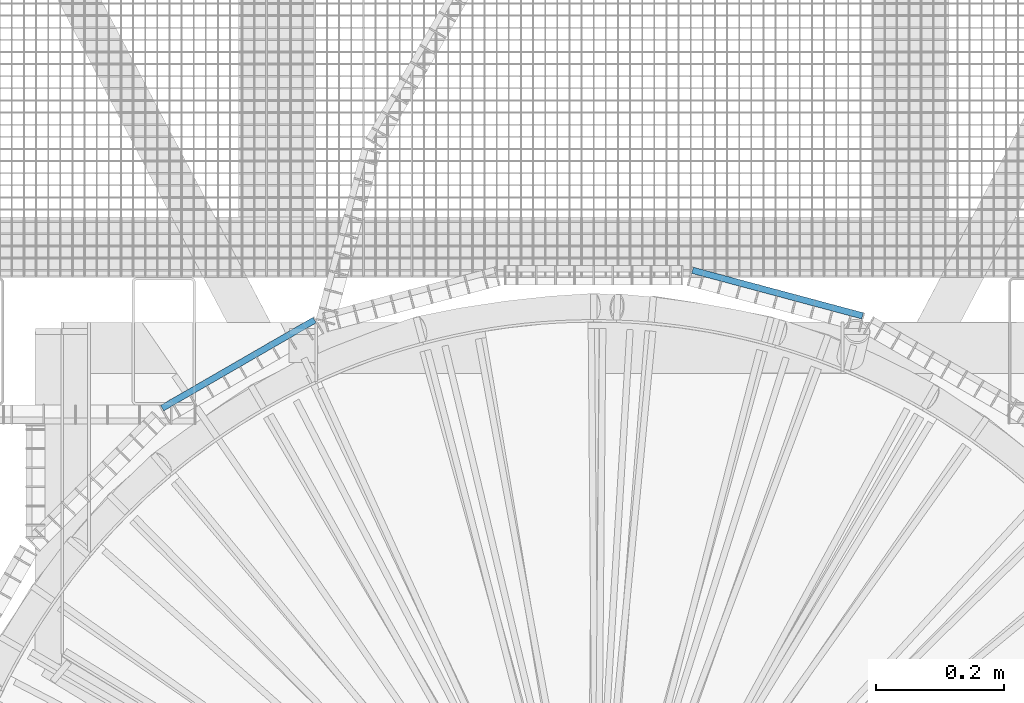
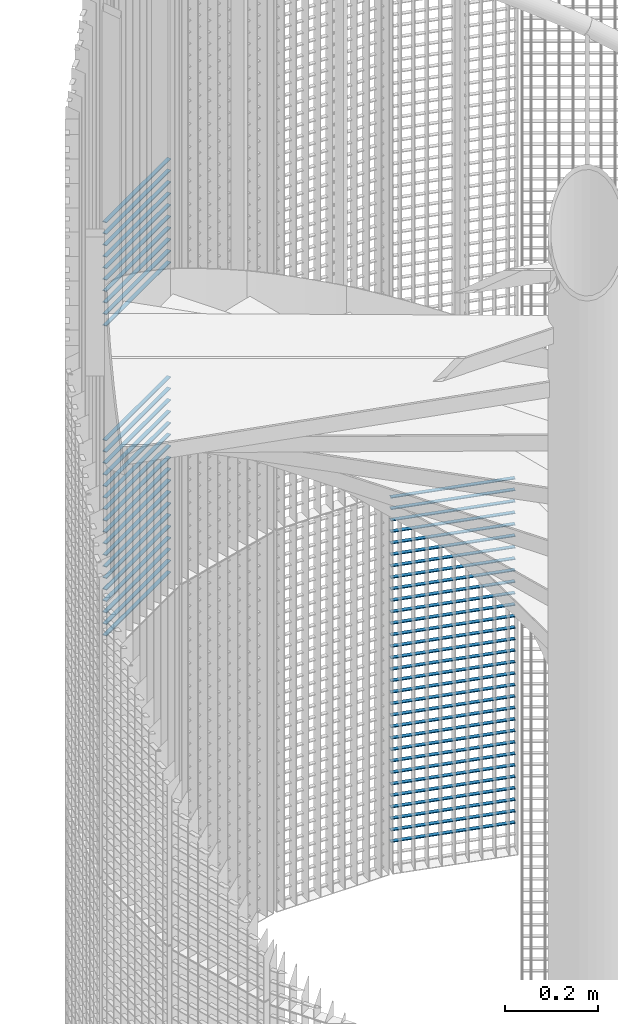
# One storey, part 309 of 1148: 59 beams, 2 elements without a shape of their own.
"""IFC2X3 building model written with IfcOpenShell, lengths in millimetres."""

import ifcopenshell
import ifcopenshell.guid

model = None  # the IFC model being written
_history = None  # IfcOwnerHistory: only IFC2X3 demands one
_inside = {}  # id of a spatial element -> (the spatial element, [elements in it])
_under = {}  # id of a project, library or spatial element -> (it, [spatial elements below it])
_declared = {}  # id of a project -> (the project, [libraries it declares])
_typed = {}  # id of a type object -> (the type object, [elements of that type])
_made_of = {}  # id of a material, layer set ... -> (it, [elements and type objects made of it])


def new_model(schema):
    """Start an empty IFC model of exactly this schema.

    Asked for "IFC4X3", IfcOpenShell would pick the latest addendum, in which some entities
    have other attributes; the version numbers below select the first issue.
    IFC2X3 requires an IfcOwnerHistory on every rooted entity: one is made here for all.
    """
    global model, _history
    if schema == "IFC4X3":
        model = ifcopenshell.file(schema_version=(4, 3, 0, 0))
    else:
        model = ifcopenshell.file(schema=schema)
    _inside.clear()
    _under.clear()
    _declared.clear()
    _typed.clear()
    _made_of.clear()
    _history = None
    if model.schema == "IFC2X3":
        org = make("IfcOrganization", Name="unknown")
        user = make(
            "IfcPersonAndOrganization",
            ThePerson=make("IfcPerson", FamilyName="unknown"),
            TheOrganization=org,
        )
        app = make(
            "IfcApplication",
            ApplicationDeveloper=org,
            Version="unknown",
            ApplicationFullName="unknown",
            ApplicationIdentifier="unknown",
        )
        _history = make(
            "IfcOwnerHistory",
            OwningUser=user,
            OwningApplication=app,
            ChangeAction="ADDED",
            CreationDate=0,
        )
    return model


def make(cls, **values):
    """One entity of the class cls with the attributes given. An attribute that is None is left unset."""
    return model.create_entity(
        cls, **{name: value for name, value in values.items() if value is not None}
    )


def rooted(cls, **values):
    """An entity with a GlobalId (a new one), such as an element, a storey or a relation."""
    return make(cls, GlobalId=ifcopenshell.guid.new(), OwnerHistory=_history, **values)


def si_unit(unit_type, name, prefix=None):
    """IfcSIUnit, for example si_unit("LENGTHUNIT", "METRE", prefix="MILLI")."""
    return make("IfcSIUnit", UnitType=unit_type, Prefix=prefix, Name=name)


def assignment(units):
    """IfcUnitAssignment: the units of a project."""
    return None if units is None else make("IfcUnitAssignment", Units=units)


def point(xyz):
    """IfcCartesianPoint."""
    return None if xyz is None else make("IfcCartesianPoint", Coordinates=xyz)


def direction(xyz):
    """IfcDirection."""
    return None if xyz is None else make("IfcDirection", DirectionRatios=xyz)


def frame(location, z_axis=None, x_axis=None):
    """IfcAxis2Placement3D, a coordinate frame: its origin and axes. An axis left out is left unset."""
    return make(
        "IfcAxis2Placement3D",
        Location=point(location),
        Axis=direction(z_axis),
        RefDirection=direction(x_axis),
    )


def frame_2d(location, x_axis=None):
    """IfcAxis2Placement2D, a coordinate frame in the plane: its origin and x axis."""
    return make(
        "IfcAxis2Placement2D", Location=point(location), RefDirection=direction(x_axis)
    )


def origin_with_axes():
    """The frame at (0, 0, 0) with the z axis (0, 0, 1) and the x axis (1, 0, 0) written out."""
    return frame((0.0, 0.0, 0.0), z_axis=(0.0, 0.0, 1.0), x_axis=(1.0, 0.0, 0.0))


def origin_2d_with_axis():
    """The frame at (0, 0) in the plane with the x axis (1, 0) written out."""
    return frame_2d((0.0, 0.0), x_axis=(1.0, 0.0))


def place(relative_to, where):
    """IfcLocalPlacement: puts the frame where relative to a parent placement (None: the world)."""
    return make(
        "IfcLocalPlacement", PlacementRelTo=relative_to, RelativePlacement=where
    )


def context(
    kind, dimensions, precision=None, world=None, true_north=None, identifier=None
):
    """IfcGeometricRepresentationContext, for example the 3D "Model" context."""
    return make(
        "IfcGeometricRepresentationContext",
        ContextIdentifier=identifier,
        ContextType=kind,
        CoordinateSpaceDimension=dimensions,
        Precision=precision,
        WorldCoordinateSystem=world,
        TrueNorth=true_north,
    )


def subcontext(parent, identifier, kind, view, scale=None):
    """IfcGeometricRepresentationSubContext, for example "Body" below "Model"."""
    return make(
        "IfcGeometricRepresentationSubContext",
        ContextIdentifier=identifier,
        ContextType=kind,
        ParentContext=parent,
        TargetScale=scale,
        TargetView=view,
    )


def project(units=None, contexts=None):
    """IfcProject with its units and contexts."""
    return rooted(
        "IfcProject",
        Name="project",
        RepresentationContexts=contexts,
        UnitsInContext=assignment(units),
    )


def spatial(cls, under=None, at=None, **own):
    """A site, building, storey or space (cls), placed at a placement, below another one or the project."""
    s = rooted(cls, ObjectPlacement=at, **own)
    if under is not None:
        _under.setdefault(under.id(), (under, []))[1].append(s)
    return s


def profile(cls, at=None, kind="AREA", **sizes):
    """A parametric profile (cls). Its sizes go by their IFC names, for example OverallWidth=200.0."""
    return make(cls, ProfileType=kind, Position=at, **sizes)


def rectangle(**sizes):
    """IfcRectangleProfileDef."""
    return profile("IfcRectangleProfileDef", **sizes)


def extrude(swept, where, along, depth):
    """IfcExtrudedAreaSolid: the profile swept, set in the frame where, extruded along a direction by depth."""
    return make(
        "IfcExtrudedAreaSolid",
        SweptArea=swept,
        Position=where,
        ExtrudedDirection=direction(along),
        Depth=depth,
    )


def shape(context_of_items, identifier, shape_type, items):
    """IfcShapeRepresentation: the items that make up one representation, for example the "Body"."""
    return make(
        "IfcShapeRepresentation",
        ContextOfItems=context_of_items,
        RepresentationIdentifier=identifier,
        RepresentationType=shape_type,
        Items=items,
    )


def material(Name=None, Category=None):
    """IfcMaterial."""
    return make("IfcMaterial", Name=Name, Category=Category)


def made_of(thing, what):
    """Note that an element or type object is made of a material, layer set ...; save() writes the relation."""
    if what is not None:
        _made_of.setdefault(what.id(), (what, []))[1].append(thing)
    return thing


def type_object(cls, material=None, **own):
    """A type object (cls), such as IfcWallType, which elements share."""
    return made_of(rooted(cls, **own), material)


def element(
    cls,
    number,
    at=None,
    inside=None,
    cuts=None,
    type_object=None,
    material=None,
    context=None,
    identifier="Body",
    shape_type=None,
    held_by="IfcProductDefinitionShape",
    body=None,
    shapes=None,
    **own,
):
    """One element of the class cls, such as IfcWall. Its Tag is "e" and its number.

    at: its placement. inside: the storey or other place that contains it. cuts: it is an
    opening in that element (IfcRelVoidsElement). A single representation is given by context,
    identifier, shape_type and body (its items); several are given by shapes. held_by: the class
    of the entity that holds the representations. save() writes the other relations.
    """
    e = rooted(cls, Tag="e%d" % number, ObjectPlacement=at, **own)
    if body is not None:
        shapes = [shape(context, identifier, shape_type, body)]
    if shapes is not None:
        e.Representation = make(held_by, Representations=shapes)
    if inside is not None:
        _inside.setdefault(inside.id(), (inside, []))[1].append(e)
    if cuts is not None:
        rooted(
            "IfcRelVoidsElement", RelatingBuildingElement=cuts, RelatedOpeningElement=e
        )
    if type_object is not None:
        _typed.setdefault(type_object.id(), (type_object, []))[1].append(e)
    return made_of(e, material)


def aggregate(whole, parts):
    """IfcRelAggregates: a whole, such as a stair, and the parts it consists of."""
    return rooted("IfcRelAggregates", RelatingObject=whole, RelatedObjects=parts)


def save(model, path):
    """Write the relations noted so far, then the file.

    IfcRelAggregates (storeys below a building ...), IfcRelContainedInSpatialStructure (elements
    in a storey), IfcRelDefinesByType, IfcRelAssociatesMaterial and IfcRelDeclares: one each for
    every whole, place, type object, material and project.
    """
    for whole, parts in _under.values():
        aggregate(whole, parts)
    for where, things in _inside.values():
        rooted(
            "IfcRelContainedInSpatialStructure",
            RelatedElements=things,
            RelatingStructure=where,
        )
    for kind, things in _typed.values():
        rooted("IfcRelDefinesByType", RelatedObjects=things, RelatingType=kind)
    for what, things in _made_of.values():
        rooted("IfcRelAssociatesMaterial", RelatedObjects=things, RelatingMaterial=what)
    for by, libraries in _declared.values():
        rooted("IfcRelDeclares", RelatingContext=by, RelatedDefinitions=libraries)
    model.write(path)


model = new_model("IFC2X3")

# Units and contexts
model_context = context("Model", 3, precision=1e-05, world=origin_with_axes())
body_context = subcontext(model_context, "Body", "Model", "MODEL_VIEW")
ifc_project = project(units=[si_unit("LENGTHUNIT", "METRE", prefix="MILLI"), si_unit("AREAUNIT", "SQUARE_METRE"), si_unit("VOLUMEUNIT", "CUBIC_METRE"), si_unit("MASSUNIT", "GRAM", prefix="KILO"), si_unit("TIMEUNIT", "SECOND"), si_unit("PLANEANGLEUNIT", "RADIAN"), si_unit("SOLIDANGLEUNIT", "STERADIAN"), si_unit("THERMODYNAMICTEMPERATUREUNIT", "DEGREE_CELSIUS"), si_unit("LUMINOUSINTENSITYUNIT", "LUMEN")], contexts=[model_context])

# Site, building, storey
site_placement = place(None, origin_with_axes())
site = spatial("IfcSite", under=ifc_project, at=site_placement, Name="Undefined", CompositionType="ELEMENT")
building_placement = place(site_placement, origin_with_axes())
building = spatial("IfcBuilding", under=site, at=building_placement, Name="Undefined", CompositionType="ELEMENT")
storey_placement = place(building_placement, origin_with_axes())
storey = spatial("IfcBuildingStorey", under=building, at=storey_placement, Name="Undefined", CompositionType="ELEMENT", Elevation=0.0)

# Assembly, beams
assembly_1_placement = place(storey_placement, origin_with_axes())
assembly_1 = element("IfcElementAssembly", 1, at=assembly_1_placement, inside=storey, Name="BORDURE", AssemblyPlace="NOTDEFINED", PredefinedType="NOTDEFINED")
ifc_material = material(Name="STEEL/S235JR")
beam_type = type_object("IfcBeamType", Name="PL2*10", PredefinedType="NOTDEFINED")
beam_1_placement = place(assembly_1_placement, frame((-437.231955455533, 1033.29996828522, 3540.0), z_axis=(-0.49999999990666, 0.866025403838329, 0.0), x_axis=(-0.866025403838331, -0.499999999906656, 0.0)))
beam_1 = element("IfcBeam", 2, at=beam_1_placement, type_object=beam_type, material=ifc_material, Name="ENTRETOISE", context=body_context, shape_type="SweptSolid", body=[
    extrude(rectangle(XDim=2.0, YDim=10.0, at=origin_2d_with_axis()), frame((275.999999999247, 9.09494701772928e-13, 1.53210777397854e-14), z_axis=(-1.0, 0.0, 0.0), x_axis=(0.0, -1.0, 0.0)), (0.0, 0.0, 1.0), 276.0),
])
beam_2_placement = place(assembly_1_placement, frame((-437.231955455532, 1033.29996828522, 3840.0), z_axis=(-0.49999999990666, 0.866025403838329, 0.0), x_axis=(-0.866025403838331, -0.499999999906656, 0.0)))
beam_2 = element("IfcBeam", 3, at=beam_2_placement, type_object=beam_type, material=ifc_material, Name="ENTRETOISE", context=body_context, shape_type="SweptSolid", body=[
    extrude(rectangle(XDim=2.0, YDim=10.0, at=origin_2d_with_axis()), frame((275.999999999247, 9.09494701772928e-13, 1.53210777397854e-14), z_axis=(-1.0, 0.0, 0.0), x_axis=(0.0, -1.0, 0.0)), (0.0, 0.0, 1.0), 276.0),
])
beam_3_placement = place(assembly_1_placement, frame((-437.231955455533, 1033.29996828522, 3510.0), z_axis=(-0.49999999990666, 0.866025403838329, 0.0), x_axis=(-0.866025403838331, -0.499999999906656, 0.0)))
beam_3 = element("IfcBeam", 4, at=beam_3_placement, type_object=beam_type, material=ifc_material, Name="ENTRETOISE", context=body_context, shape_type="SweptSolid", body=[
    extrude(rectangle(XDim=2.0, YDim=10.0, at=origin_2d_with_axis()), frame((275.999999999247, 9.09494701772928e-13, 1.53210777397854e-14), z_axis=(-1.0, 0.0, 0.0), x_axis=(0.0, -1.0, 0.0)), (0.0, 0.0, 1.0), 276.0),
])
beam_4_placement = place(assembly_1_placement, frame((-437.231955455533, 1033.29996828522, 3480.0), z_axis=(-0.49999999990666, 0.866025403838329, 0.0), x_axis=(-0.866025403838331, -0.499999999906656, 0.0)))
beam_4 = element("IfcBeam", 5, at=beam_4_placement, type_object=beam_type, material=ifc_material, Name="ENTRETOISE", context=body_context, shape_type="SweptSolid", body=[
    extrude(rectangle(XDim=2.0, YDim=10.0, at=origin_2d_with_axis()), frame((275.999999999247, 9.09494701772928e-13, 1.53210777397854e-14), z_axis=(-1.0, 0.0, 0.0), x_axis=(0.0, -1.0, 0.0)), (0.0, 0.0, 1.0), 276.0),
])
beam_5_placement = place(assembly_1_placement, frame((-437.231955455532, 1033.29996828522, 3870.0), z_axis=(-0.49999999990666, 0.866025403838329, 0.0), x_axis=(-0.866025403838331, -0.499999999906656, 0.0)))
beam_5 = element("IfcBeam", 6, at=beam_5_placement, type_object=beam_type, material=ifc_material, Name="ENTRETOISE", context=body_context, shape_type="SweptSolid", body=[
    extrude(rectangle(XDim=2.0, YDim=10.0, at=origin_2d_with_axis()), frame((275.999999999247, 9.09494701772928e-13, 1.53210777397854e-14), z_axis=(-1.0, 0.0, 0.0), x_axis=(0.0, -1.0, 0.0)), (0.0, 0.0, 1.0), 276.0),
])
beam_6_placement = place(assembly_1_placement, frame((-437.231955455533, 1033.29996828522, 3450.0), z_axis=(-0.49999999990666, 0.866025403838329, 0.0), x_axis=(-0.866025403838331, -0.499999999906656, 0.0)))
beam_6 = element("IfcBeam", 7, at=beam_6_placement, type_object=beam_type, material=ifc_material, Name="ENTRETOISE", context=body_context, shape_type="SweptSolid", body=[
    extrude(rectangle(XDim=2.0, YDim=10.0, at=origin_2d_with_axis()), frame((275.999999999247, 9.09494701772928e-13, 1.53210777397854e-14), z_axis=(-1.0, 0.0, 0.0), x_axis=(0.0, -1.0, 0.0)), (0.0, 0.0, 1.0), 276.0),
])
beam_7_placement = place(assembly_1_placement, frame((-437.231955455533, 1033.29996828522, 3420.0), z_axis=(-0.49999999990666, 0.866025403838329, 0.0), x_axis=(-0.866025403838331, -0.499999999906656, 0.0)))
beam_7 = element("IfcBeam", 8, at=beam_7_placement, type_object=beam_type, material=ifc_material, Name="ENTRETOISE", context=body_context, shape_type="SweptSolid", body=[
    extrude(rectangle(XDim=2.0, YDim=10.0, at=origin_2d_with_axis()), frame((275.999999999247, 9.09494701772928e-13, 1.53210777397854e-14), z_axis=(-1.0, 0.0, 0.0), x_axis=(0.0, -1.0, 0.0)), (0.0, 0.0, 1.0), 276.0),
])
beam_8_placement = place(assembly_1_placement, frame((-437.231955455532, 1033.29996828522, 3900.0), z_axis=(-0.49999999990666, 0.866025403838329, 0.0), x_axis=(-0.866025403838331, -0.499999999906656, 0.0)))
beam_8 = element("IfcBeam", 9, at=beam_8_placement, type_object=beam_type, material=ifc_material, Name="ENTRETOISE", context=body_context, shape_type="SweptSolid", body=[
    extrude(rectangle(XDim=2.0, YDim=10.0, at=origin_2d_with_axis()), frame((275.999999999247, 9.09494701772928e-13, 1.53210777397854e-14), z_axis=(-1.0, 0.0, 0.0), x_axis=(0.0, -1.0, 0.0)), (0.0, 0.0, 1.0), 276.0),
])
beam_9_placement = place(assembly_1_placement, frame((-437.231955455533, 1033.29996828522, 3390.0), z_axis=(-0.49999999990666, 0.866025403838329, 0.0), x_axis=(-0.866025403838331, -0.499999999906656, 0.0)))
beam_9 = element("IfcBeam", 10, at=beam_9_placement, type_object=beam_type, material=ifc_material, Name="ENTRETOISE", context=body_context, shape_type="SweptSolid", body=[
    extrude(rectangle(XDim=2.0, YDim=10.0, at=origin_2d_with_axis()), frame((275.999999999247, 9.09494701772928e-13, 1.53210777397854e-14), z_axis=(-1.0, 0.0, 0.0), x_axis=(0.0, -1.0, 0.0)), (0.0, 0.0, 1.0), 276.0),
])
beam_10_placement = place(assembly_1_placement, frame((-437.231955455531, 1033.29996828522, 3930.0), z_axis=(-0.49999999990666, 0.866025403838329, 0.0), x_axis=(-0.866025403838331, -0.499999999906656, 0.0)))
beam_10 = element("IfcBeam", 11, at=beam_10_placement, type_object=beam_type, material=ifc_material, Name="ENTRETOISE", context=body_context, shape_type="SweptSolid", body=[
    extrude(rectangle(XDim=2.0, YDim=10.0, at=origin_2d_with_axis()), frame((275.999999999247, 9.09494701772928e-13, 1.53210777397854e-14), z_axis=(-1.0, 0.0, 0.0), x_axis=(0.0, -1.0, 0.0)), (0.0, 0.0, 1.0), 276.0),
])
beam_11_placement = place(assembly_1_placement, frame((-437.231955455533, 1033.29996828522, 3360.0), z_axis=(-0.49999999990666, 0.866025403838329, 0.0), x_axis=(-0.866025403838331, -0.499999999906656, 0.0)))
beam_11 = element("IfcBeam", 12, at=beam_11_placement, type_object=beam_type, material=ifc_material, Name="ENTRETOISE", context=body_context, shape_type="SweptSolid", body=[
    extrude(rectangle(XDim=2.0, YDim=10.0, at=origin_2d_with_axis()), frame((275.999999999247, 9.09494701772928e-13, 1.53210777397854e-14), z_axis=(-1.0, 0.0, 0.0), x_axis=(0.0, -1.0, 0.0)), (0.0, 0.0, 1.0), 276.0),
])
beam_12_placement = place(assembly_1_placement, frame((-437.231955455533, 1033.29996828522, 3330.0), z_axis=(-0.49999999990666, 0.866025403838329, 0.0), x_axis=(-0.866025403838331, -0.499999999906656, 0.0)))
beam_12 = element("IfcBeam", 13, at=beam_12_placement, type_object=beam_type, material=ifc_material, Name="ENTRETOISE", context=body_context, shape_type="SweptSolid", body=[
    extrude(rectangle(XDim=2.0, YDim=10.0, at=origin_2d_with_axis()), frame((275.999999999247, 9.09494701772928e-13, 1.53210777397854e-14), z_axis=(-1.0, 0.0, 0.0), x_axis=(0.0, -1.0, 0.0)), (0.0, 0.0, 1.0), 276.0),
])
beam_13_placement = place(assembly_1_placement, frame((-437.231955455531, 1033.29996828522, 3960.0), z_axis=(-0.49999999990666, 0.866025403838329, 0.0), x_axis=(-0.866025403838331, -0.499999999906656, 0.0)))
beam_13 = element("IfcBeam", 14, at=beam_13_placement, type_object=beam_type, material=ifc_material, Name="ENTRETOISE", context=body_context, shape_type="SweptSolid", body=[
    extrude(rectangle(XDim=2.0, YDim=10.0, at=origin_2d_with_axis()), frame((275.999999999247, 9.09494701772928e-13, 1.53210777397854e-14), z_axis=(-1.0, 0.0, 0.0), x_axis=(0.0, -1.0, 0.0)), (0.0, 0.0, 1.0), 276.0),
])
beam_14_placement = place(assembly_1_placement, frame((-437.231955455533, 1033.29996828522, 3300.0), z_axis=(-0.49999999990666, 0.866025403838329, 0.0), x_axis=(-0.866025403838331, -0.499999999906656, 0.0)))
beam_14 = element("IfcBeam", 15, at=beam_14_placement, type_object=beam_type, material=ifc_material, Name="ENTRETOISE", context=body_context, shape_type="SweptSolid", body=[
    extrude(rectangle(XDim=2.0, YDim=10.0, at=origin_2d_with_axis()), frame((275.999999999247, 9.09494701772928e-13, 1.53210777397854e-14), z_axis=(-1.0, 0.0, 0.0), x_axis=(0.0, -1.0, 0.0)), (0.0, 0.0, 1.0), 276.0),
])
beam_15_placement = place(assembly_1_placement, frame((-437.231955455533, 1033.29996828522, 3270.0), z_axis=(-0.49999999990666, 0.866025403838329, 0.0), x_axis=(-0.866025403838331, -0.499999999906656, 0.0)))
beam_15 = element("IfcBeam", 16, at=beam_15_placement, type_object=beam_type, material=ifc_material, Name="ENTRETOISE", context=body_context, shape_type="SweptSolid", body=[
    extrude(rectangle(XDim=2.0, YDim=10.0, at=origin_2d_with_axis()), frame((275.999999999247, 9.09494701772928e-13, 1.53210777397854e-14), z_axis=(-1.0, 0.0, 0.0), x_axis=(0.0, -1.0, 0.0)), (0.0, 0.0, 1.0), 276.0),
])
beam_16_placement = place(assembly_1_placement, frame((-437.231955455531, 1033.29996828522, 3990.0), z_axis=(-0.49999999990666, 0.866025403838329, 0.0), x_axis=(-0.866025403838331, -0.499999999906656, 0.0)))
beam_16 = element("IfcBeam", 17, at=beam_16_placement, type_object=beam_type, material=ifc_material, Name="ENTRETOISE", context=body_context, shape_type="SweptSolid", body=[
    extrude(rectangle(XDim=2.0, YDim=10.0, at=origin_2d_with_axis()), frame((275.999999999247, 9.09494701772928e-13, 1.53210777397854e-14), z_axis=(-1.0, 0.0, 0.0), x_axis=(0.0, -1.0, 0.0)), (0.0, 0.0, 1.0), 276.0),
])
beam_17_placement = place(assembly_1_placement, frame((-437.231955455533, 1033.29996828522, 3240.0), z_axis=(-0.49999999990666, 0.866025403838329, 0.0), x_axis=(-0.866025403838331, -0.499999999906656, 0.0)))
beam_17 = element("IfcBeam", 18, at=beam_17_placement, type_object=beam_type, material=ifc_material, Name="ENTRETOISE", context=body_context, shape_type="SweptSolid", body=[
    extrude(rectangle(XDim=2.0, YDim=10.0, at=origin_2d_with_axis()), frame((275.999999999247, 9.09494701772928e-13, 1.53210777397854e-14), z_axis=(-1.0, 0.0, 0.0), x_axis=(0.0, -1.0, 0.0)), (0.0, 0.0, 1.0), 276.0),
])
beam_18_placement = place(assembly_1_placement, frame((-437.231955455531, 1033.29996828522, 4020.0), z_axis=(-0.49999999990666, 0.866025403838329, 0.0), x_axis=(-0.866025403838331, -0.499999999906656, 0.0)))
beam_18 = element("IfcBeam", 19, at=beam_18_placement, type_object=beam_type, material=ifc_material, Name="ENTRETOISE", context=body_context, shape_type="SweptSolid", body=[
    extrude(rectangle(XDim=2.0, YDim=10.0, at=origin_2d_with_axis()), frame((275.999999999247, 9.09494701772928e-13, 1.53210777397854e-14), z_axis=(-1.0, 0.0, 0.0), x_axis=(0.0, -1.0, 0.0)), (0.0, 0.0, 1.0), 276.0),
])
beam_19_placement = place(assembly_1_placement, frame((-437.231955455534, 1033.29996828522, 3210.0), z_axis=(-0.49999999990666, 0.866025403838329, 0.0), x_axis=(-0.866025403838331, -0.499999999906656, 0.0)))
beam_19 = element("IfcBeam", 20, at=beam_19_placement, type_object=beam_type, material=ifc_material, Name="ENTRETOISE", context=body_context, shape_type="SweptSolid", body=[
    extrude(rectangle(XDim=2.0, YDim=10.0, at=origin_2d_with_axis()), frame((275.999999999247, 9.09494701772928e-13, 1.53210777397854e-14), z_axis=(-1.0, 0.0, 0.0), x_axis=(0.0, -1.0, 0.0)), (0.0, 0.0, 1.0), 276.0),
])
beam_20_placement = place(assembly_1_placement, frame((-437.231955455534, 1033.29996828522, 3180.0), z_axis=(-0.49999999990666, 0.866025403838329, 0.0), x_axis=(-0.866025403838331, -0.499999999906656, 0.0)))
beam_20 = element("IfcBeam", 21, at=beam_20_placement, type_object=beam_type, material=ifc_material, Name="ENTRETOISE", context=body_context, shape_type="SweptSolid", body=[
    extrude(rectangle(XDim=2.0, YDim=10.0, at=origin_2d_with_axis()), frame((275.999999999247, 9.09494701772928e-13, 1.53210777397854e-14), z_axis=(-1.0, 0.0, 0.0), x_axis=(0.0, -1.0, 0.0)), (0.0, 0.0, 1.0), 276.0),
])
beam_21_placement = place(assembly_1_placement, frame((-437.231955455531, 1033.29996828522, 4050.0), z_axis=(-0.49999999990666, 0.866025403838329, 0.0), x_axis=(-0.866025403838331, -0.499999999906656, 0.0)))
beam_21 = element("IfcBeam", 22, at=beam_21_placement, type_object=beam_type, material=ifc_material, Name="ENTRETOISE", context=body_context, shape_type="SweptSolid", body=[
    extrude(rectangle(XDim=2.0, YDim=10.0, at=origin_2d_with_axis()), frame((275.999999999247, 9.09494701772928e-13, 1.53210777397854e-14), z_axis=(-1.0, 0.0, 0.0), x_axis=(0.0, -1.0, 0.0)), (0.0, 0.0, 1.0), 276.0),
])
beam_22_placement = place(assembly_1_placement, frame((-437.231955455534, 1033.29996828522, 3150.0), z_axis=(-0.49999999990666, 0.866025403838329, 0.0), x_axis=(-0.866025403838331, -0.499999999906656, 0.0)))
beam_22 = element("IfcBeam", 23, at=beam_22_placement, type_object=beam_type, material=ifc_material, Name="ENTRETOISE", context=body_context, shape_type="SweptSolid", body=[
    extrude(rectangle(XDim=2.0, YDim=10.0, at=origin_2d_with_axis()), frame((275.999999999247, 9.09494701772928e-13, 1.53210777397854e-14), z_axis=(-1.0, 0.0, 0.0), x_axis=(0.0, -1.0, 0.0)), (0.0, 0.0, 1.0), 276.0),
])
beam_23_placement = place(assembly_1_placement, frame((-437.231955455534, 1033.29996828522, 3120.0), z_axis=(-0.49999999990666, 0.866025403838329, 0.0), x_axis=(-0.866025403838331, -0.499999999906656, 0.0)))
beam_23 = element("IfcBeam", 24, at=beam_23_placement, type_object=beam_type, material=ifc_material, Name="ENTRETOISE", context=body_context, shape_type="SweptSolid", body=[
    extrude(rectangle(XDim=2.0, YDim=10.0, at=origin_2d_with_axis()), frame((275.999999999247, 9.09494701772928e-13, 1.53210777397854e-14), z_axis=(-1.0, 0.0, 0.0), x_axis=(0.0, -1.0, 0.0)), (0.0, 0.0, 1.0), 276.0),
])
beam_24_placement = place(assembly_1_placement, frame((-437.231955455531, 1033.29996828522, 4080.0), z_axis=(-0.49999999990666, 0.866025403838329, 0.0), x_axis=(-0.866025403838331, -0.499999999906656, 0.0)))
beam_24 = element("IfcBeam", 25, at=beam_24_placement, type_object=beam_type, material=ifc_material, Name="ENTRETOISE", context=body_context, shape_type="SweptSolid", body=[
    extrude(rectangle(XDim=2.0, YDim=10.0, at=origin_2d_with_axis()), frame((275.999999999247, 9.09494701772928e-13, 1.53210777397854e-14), z_axis=(-1.0, 0.0, 0.0), x_axis=(0.0, -1.0, 0.0)), (0.0, 0.0, 1.0), 276.0),
])
beam_25_placement = place(assembly_1_placement, frame((-437.231955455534, 1033.29996828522, 3090.0), z_axis=(-0.49999999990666, 0.866025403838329, 0.0), x_axis=(-0.866025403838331, -0.499999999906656, 0.0)))
beam_25 = element("IfcBeam", 26, at=beam_25_placement, type_object=beam_type, material=ifc_material, Name="ENTRETOISE", context=body_context, shape_type="SweptSolid", body=[
    extrude(rectangle(XDim=2.0, YDim=10.0, at=origin_2d_with_axis()), frame((275.999999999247, 9.09494701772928e-13, 1.53210777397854e-14), z_axis=(-1.0, 0.0, 0.0), x_axis=(0.0, -1.0, 0.0)), (0.0, 0.0, 1.0), 276.0),
])
beam_26_placement = place(assembly_1_placement, frame((-437.231955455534, 1033.29996828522, 3060.0), z_axis=(-0.49999999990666, 0.866025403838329, 0.0), x_axis=(-0.866025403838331, -0.499999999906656, 0.0)))
beam_26 = element("IfcBeam", 27, at=beam_26_placement, type_object=beam_type, material=ifc_material, Name="ENTRETOISE", context=body_context, shape_type="SweptSolid", body=[
    extrude(rectangle(XDim=2.0, YDim=10.0, at=origin_2d_with_axis()), frame((275.999999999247, 9.09494701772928e-13, 1.53210777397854e-14), z_axis=(-1.0, 0.0, 0.0), x_axis=(0.0, -1.0, 0.0)), (0.0, 0.0, 1.0), 276.0),
])
beam_27_placement = place(assembly_1_placement, frame((-437.231955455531, 1033.29996828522, 4110.0), z_axis=(-0.49999999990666, 0.866025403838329, 0.0), x_axis=(-0.866025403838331, -0.499999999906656, 0.0)))
beam_27 = element("IfcBeam", 28, at=beam_27_placement, type_object=beam_type, material=ifc_material, Name="ENTRETOISE", context=body_context, shape_type="SweptSolid", body=[
    extrude(rectangle(XDim=2.0, YDim=10.0, at=origin_2d_with_axis()), frame((275.999999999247, 9.09494701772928e-13, 1.53210777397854e-14), z_axis=(-1.0, 0.0, 0.0), x_axis=(0.0, -1.0, 0.0)), (0.0, 0.0, 1.0), 276.0),
])
beam_28_placement = place(assembly_1_placement, frame((-437.231955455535, 1033.29996828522, 3030.0), z_axis=(-0.49999999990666, 0.866025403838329, 0.0), x_axis=(-0.866025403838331, -0.499999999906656, 0.0)))
beam_28 = element("IfcBeam", 29, at=beam_28_placement, type_object=beam_type, material=ifc_material, Name="ENTRETOISE", context=body_context, shape_type="SweptSolid", body=[
    extrude(rectangle(XDim=2.0, YDim=10.0, at=origin_2d_with_axis()), frame((275.999999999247, 9.09494701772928e-13, 1.53210777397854e-14), z_axis=(-1.0, 0.0, 0.0), x_axis=(0.0, -1.0, 0.0)), (0.0, 0.0, 1.0), 276.0),
])
aggregate(assembly_1, [beam_1, beam_2, beam_3, beam_4, beam_5, beam_6, beam_7, beam_8, beam_9, beam_10, beam_11, beam_12, beam_13, beam_14, beam_15, beam_16, beam_17, beam_18, beam_19, beam_20, beam_21, beam_22, beam_23, beam_24, beam_25, beam_26, beam_27, beam_28])

assembly_2_placement = place(storey_placement, origin_with_axes())
assembly_2 = element("IfcElementAssembly", 30, at=assembly_2_placement, inside=storey, Name="BORDURE", AssemblyPlace="NOTDEFINED", PredefinedType="NOTDEFINED")
beam_29_placement = place(assembly_2_placement, frame((421.483733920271, 1039.82309522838, 2970.0), z_axis=(0.258819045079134, 0.965925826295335, 0.0), x_axis=(-0.965925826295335, 0.258819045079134, 0.0)))
beam_29 = element("IfcBeam", 31, at=beam_29_placement, type_object=beam_type, material=ifc_material, Name="ENTRETOISE", context=body_context, shape_type="SweptSolid", body=[
    extrude(rectangle(XDim=2.0, YDim=10.0, at=origin_2d_with_axis()), frame((275.999999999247, 9.09494701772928e-13, 1.53210777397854e-14), z_axis=(-1.0, 0.0, 0.0), x_axis=(0.0, -1.0, 0.0)), (0.0, 0.0, 1.0), 276.0),
])
beam_30_placement = place(assembly_2_placement, frame((421.483733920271, 1039.82309522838, 2940.0), z_axis=(0.258819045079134, 0.965925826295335, 0.0), x_axis=(-0.965925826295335, 0.258819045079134, 0.0)))
beam_30 = element("IfcBeam", 32, at=beam_30_placement, type_object=beam_type, material=ifc_material, Name="ENTRETOISE", context=body_context, shape_type="SweptSolid", body=[
    extrude(rectangle(XDim=2.0, YDim=10.0, at=origin_2d_with_axis()), frame((275.999999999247, 9.09494701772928e-13, 1.53210777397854e-14), z_axis=(-1.0, 0.0, 0.0), x_axis=(0.0, -1.0, 0.0)), (0.0, 0.0, 1.0), 276.0),
])
beam_31_placement = place(assembly_2_placement, frame((421.483733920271, 1039.82309522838, 2910.0), z_axis=(0.258819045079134, 0.965925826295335, 0.0), x_axis=(-0.965925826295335, 0.258819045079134, 0.0)))
beam_31 = element("IfcBeam", 33, at=beam_31_placement, type_object=beam_type, material=ifc_material, Name="ENTRETOISE", context=body_context, shape_type="SweptSolid", body=[
    extrude(rectangle(XDim=2.0, YDim=10.0, at=origin_2d_with_axis()), frame((275.999999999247, 9.09494701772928e-13, 1.53210777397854e-14), z_axis=(-1.0, 0.0, 0.0), x_axis=(0.0, -1.0, 0.0)), (0.0, 0.0, 1.0), 276.0),
])
beam_32_placement = place(assembly_2_placement, frame((421.483733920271, 1039.82309522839, 2880.0), z_axis=(0.258819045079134, 0.965925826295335, 0.0), x_axis=(-0.965925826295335, 0.258819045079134, 0.0)))
beam_32 = element("IfcBeam", 34, at=beam_32_placement, type_object=beam_type, material=ifc_material, Name="ENTRETOISE", context=body_context, shape_type="SweptSolid", body=[
    extrude(rectangle(XDim=2.0, YDim=10.0, at=origin_2d_with_axis()), frame((275.999999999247, 9.09494701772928e-13, 1.53210777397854e-14), z_axis=(-1.0, 0.0, 0.0), x_axis=(0.0, -1.0, 0.0)), (0.0, 0.0, 1.0), 276.0),
])
beam_33_placement = place(assembly_2_placement, frame((421.483733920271, 1039.82309522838, 2850.0), z_axis=(0.258819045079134, 0.965925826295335, 0.0), x_axis=(-0.965925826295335, 0.258819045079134, 0.0)))
beam_33 = element("IfcBeam", 35, at=beam_33_placement, type_object=beam_type, material=ifc_material, Name="ENTRETOISE", context=body_context, shape_type="SweptSolid", body=[
    extrude(rectangle(XDim=2.0, YDim=10.0, at=origin_2d_with_axis()), frame((275.999999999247, 9.09494701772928e-13, 1.53210777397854e-14), z_axis=(-1.0, 0.0, 0.0), x_axis=(0.0, -1.0, 0.0)), (0.0, 0.0, 1.0), 276.0),
])
beam_34_placement = place(assembly_2_placement, frame((421.483733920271, 1039.82309522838, 2820.0), z_axis=(0.258819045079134, 0.965925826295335, 0.0), x_axis=(-0.965925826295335, 0.258819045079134, 0.0)))
beam_34 = element("IfcBeam", 36, at=beam_34_placement, type_object=beam_type, material=ifc_material, Name="ENTRETOISE", context=body_context, shape_type="SweptSolid", body=[
    extrude(rectangle(XDim=2.0, YDim=10.0, at=origin_2d_with_axis()), frame((275.999999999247, 9.09494701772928e-13, 1.53210777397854e-14), z_axis=(-1.0, 0.0, 0.0), x_axis=(0.0, -1.0, 0.0)), (0.0, 0.0, 1.0), 276.0),
])
beam_35_placement = place(assembly_2_placement, frame((421.483733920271, 1039.82309522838, 2790.0), z_axis=(0.258819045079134, 0.965925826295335, 0.0), x_axis=(-0.965925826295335, 0.258819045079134, 0.0)))
beam_35 = element("IfcBeam", 37, at=beam_35_placement, type_object=beam_type, material=ifc_material, Name="ENTRETOISE", context=body_context, shape_type="SweptSolid", body=[
    extrude(rectangle(XDim=2.0, YDim=10.0, at=origin_2d_with_axis()), frame((275.999999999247, 9.09494701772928e-13, 1.53210777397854e-14), z_axis=(-1.0, 0.0, 0.0), x_axis=(0.0, -1.0, 0.0)), (0.0, 0.0, 1.0), 276.0),
])
beam_36_placement = place(assembly_2_placement, frame((421.483733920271, 1039.82309522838, 2760.0), z_axis=(0.258819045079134, 0.965925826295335, 0.0), x_axis=(-0.965925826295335, 0.258819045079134, 0.0)))
beam_36 = element("IfcBeam", 38, at=beam_36_placement, type_object=beam_type, material=ifc_material, Name="ENTRETOISE", context=body_context, shape_type="SweptSolid", body=[
    extrude(rectangle(XDim=2.0, YDim=10.0, at=origin_2d_with_axis()), frame((275.999999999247, 9.09494701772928e-13, 1.53210777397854e-14), z_axis=(-1.0, 0.0, 0.0), x_axis=(0.0, -1.0, 0.0)), (0.0, 0.0, 1.0), 276.0),
])
beam_37_placement = place(assembly_2_placement, frame((421.483733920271, 1039.82309522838, 2730.0), z_axis=(0.258819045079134, 0.965925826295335, 0.0), x_axis=(-0.965925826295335, 0.258819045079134, 0.0)))
beam_37 = element("IfcBeam", 39, at=beam_37_placement, type_object=beam_type, material=ifc_material, Name="ENTRETOISE", context=body_context, shape_type="SweptSolid", body=[
    extrude(rectangle(XDim=2.0, YDim=10.0, at=origin_2d_with_axis()), frame((275.999999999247, 9.09494701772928e-13, 1.53210777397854e-14), z_axis=(-1.0, 0.0, 0.0), x_axis=(0.0, -1.0, 0.0)), (0.0, 0.0, 1.0), 276.0),
])
beam_38_placement = place(assembly_2_placement, frame((421.483733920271, 1039.82309522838, 2700.0), z_axis=(0.258819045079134, 0.965925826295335, 0.0), x_axis=(-0.965925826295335, 0.258819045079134, 0.0)))
beam_38 = element("IfcBeam", 40, at=beam_38_placement, type_object=beam_type, material=ifc_material, Name="ENTRETOISE", context=body_context, shape_type="SweptSolid", body=[
    extrude(rectangle(XDim=2.0, YDim=10.0, at=origin_2d_with_axis()), frame((275.999999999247, 9.09494701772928e-13, 1.53210777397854e-14), z_axis=(-1.0, 0.0, 0.0), x_axis=(0.0, -1.0, 0.0)), (0.0, 0.0, 1.0), 276.0),
])
beam_39_placement = place(assembly_2_placement, frame((421.483733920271, 1039.82309522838, 2670.0), z_axis=(0.258819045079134, 0.965925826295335, 0.0), x_axis=(-0.965925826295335, 0.258819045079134, 0.0)))
beam_39 = element("IfcBeam", 41, at=beam_39_placement, type_object=beam_type, material=ifc_material, Name="ENTRETOISE", context=body_context, shape_type="SweptSolid", body=[
    extrude(rectangle(XDim=2.0, YDim=10.0, at=origin_2d_with_axis()), frame((275.999999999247, 9.09494701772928e-13, 1.53210777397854e-14), z_axis=(-1.0, 0.0, 0.0), x_axis=(0.0, -1.0, 0.0)), (0.0, 0.0, 1.0), 276.0),
])
beam_40_placement = place(assembly_2_placement, frame((421.48373392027, 1039.82309522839, 2640.0), z_axis=(0.258819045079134, 0.965925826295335, 0.0), x_axis=(-0.965925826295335, 0.258819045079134, 0.0)))
beam_40 = element("IfcBeam", 42, at=beam_40_placement, type_object=beam_type, material=ifc_material, Name="ENTRETOISE", context=body_context, shape_type="SweptSolid", body=[
    extrude(rectangle(XDim=2.0, YDim=10.0, at=origin_2d_with_axis()), frame((275.999999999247, 9.09494701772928e-13, 1.53210777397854e-14), z_axis=(-1.0, 0.0, 0.0), x_axis=(0.0, -1.0, 0.0)), (0.0, 0.0, 1.0), 276.0),
])
beam_41_placement = place(assembly_2_placement, frame((421.48373392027, 1039.82309522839, 2610.0), z_axis=(0.258819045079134, 0.965925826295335, 0.0), x_axis=(-0.965925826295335, 0.258819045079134, 0.0)))
beam_41 = element("IfcBeam", 43, at=beam_41_placement, type_object=beam_type, material=ifc_material, Name="ENTRETOISE", context=body_context, shape_type="SweptSolid", body=[
    extrude(rectangle(XDim=2.0, YDim=10.0, at=origin_2d_with_axis()), frame((275.999999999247, 9.09494701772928e-13, 1.53210777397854e-14), z_axis=(-1.0, 0.0, 0.0), x_axis=(0.0, -1.0, 0.0)), (0.0, 0.0, 1.0), 276.0),
])
beam_42_placement = place(assembly_2_placement, frame((421.48373392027, 1039.82309522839, 2580.0), z_axis=(0.258819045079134, 0.965925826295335, 0.0), x_axis=(-0.965925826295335, 0.258819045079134, 0.0)))
beam_42 = element("IfcBeam", 44, at=beam_42_placement, type_object=beam_type, material=ifc_material, Name="ENTRETOISE", context=body_context, shape_type="SweptSolid", body=[
    extrude(rectangle(XDim=2.0, YDim=10.0, at=origin_2d_with_axis()), frame((275.999999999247, 9.09494701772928e-13, 1.53210777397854e-14), z_axis=(-1.0, 0.0, 0.0), x_axis=(0.0, -1.0, 0.0)), (0.0, 0.0, 1.0), 276.0),
])
beam_43_placement = place(assembly_2_placement, frame((421.48373392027, 1039.82309522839, 2550.0), z_axis=(0.258819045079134, 0.965925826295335, 0.0), x_axis=(-0.965925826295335, 0.258819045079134, 0.0)))
beam_43 = element("IfcBeam", 45, at=beam_43_placement, type_object=beam_type, material=ifc_material, Name="ENTRETOISE", context=body_context, shape_type="SweptSolid", body=[
    extrude(rectangle(XDim=2.0, YDim=10.0, at=origin_2d_with_axis()), frame((275.999999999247, 9.09494701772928e-13, 1.53210777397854e-14), z_axis=(-1.0, 0.0, 0.0), x_axis=(0.0, -1.0, 0.0)), (0.0, 0.0, 1.0), 276.0),
])
beam_44_placement = place(assembly_2_placement, frame((421.48373392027, 1039.82309522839, 2520.0), z_axis=(0.258819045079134, 0.965925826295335, 0.0), x_axis=(-0.965925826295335, 0.258819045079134, 0.0)))
beam_44 = element("IfcBeam", 46, at=beam_44_placement, type_object=beam_type, material=ifc_material, Name="ENTRETOISE", context=body_context, shape_type="SweptSolid", body=[
    extrude(rectangle(XDim=2.0, YDim=10.0, at=origin_2d_with_axis()), frame((275.999999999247, 9.09494701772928e-13, 1.53210777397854e-14), z_axis=(-1.0, 0.0, 0.0), x_axis=(0.0, -1.0, 0.0)), (0.0, 0.0, 1.0), 276.0),
])
beam_45_placement = place(assembly_2_placement, frame((421.48373392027, 1039.82309522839, 2490.0), z_axis=(0.258819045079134, 0.965925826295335, 0.0), x_axis=(-0.965925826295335, 0.258819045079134, 0.0)))
beam_45 = element("IfcBeam", 47, at=beam_45_placement, type_object=beam_type, material=ifc_material, Name="ENTRETOISE", context=body_context, shape_type="SweptSolid", body=[
    extrude(rectangle(XDim=2.0, YDim=10.0, at=origin_2d_with_axis()), frame((275.999999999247, 9.09494701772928e-13, 1.53210777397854e-14), z_axis=(-1.0, 0.0, 0.0), x_axis=(0.0, -1.0, 0.0)), (0.0, 0.0, 1.0), 276.0),
])
beam_46_placement = place(assembly_2_placement, frame((421.48373392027, 1039.82309522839, 2460.0), z_axis=(0.258819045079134, 0.965925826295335, 0.0), x_axis=(-0.965925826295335, 0.258819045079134, 0.0)))
beam_46 = element("IfcBeam", 48, at=beam_46_placement, type_object=beam_type, material=ifc_material, Name="ENTRETOISE", context=body_context, shape_type="SweptSolid", body=[
    extrude(rectangle(XDim=2.0, YDim=10.0, at=origin_2d_with_axis()), frame((275.999999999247, 9.09494701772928e-13, 1.53210777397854e-14), z_axis=(-1.0, 0.0, 0.0), x_axis=(0.0, -1.0, 0.0)), (0.0, 0.0, 1.0), 276.0),
])
beam_47_placement = place(assembly_2_placement, frame((421.48373392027, 1039.82309522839, 2430.0), z_axis=(0.258819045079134, 0.965925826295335, 0.0), x_axis=(-0.965925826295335, 0.258819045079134, 0.0)))
beam_47 = element("IfcBeam", 49, at=beam_47_placement, type_object=beam_type, material=ifc_material, Name="ENTRETOISE", context=body_context, shape_type="SweptSolid", body=[
    extrude(rectangle(XDim=2.0, YDim=10.0, at=origin_2d_with_axis()), frame((275.999999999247, 9.09494701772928e-13, 1.53210777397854e-14), z_axis=(-1.0, 0.0, 0.0), x_axis=(0.0, -1.0, 0.0)), (0.0, 0.0, 1.0), 276.0),
])
beam_48_placement = place(assembly_2_placement, frame((421.48373392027, 1039.82309522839, 2400.0), z_axis=(0.258819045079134, 0.965925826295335, 0.0), x_axis=(-0.965925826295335, 0.258819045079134, 0.0)))
beam_48 = element("IfcBeam", 50, at=beam_48_placement, type_object=beam_type, material=ifc_material, Name="ENTRETOISE", context=body_context, shape_type="SweptSolid", body=[
    extrude(rectangle(XDim=2.0, YDim=10.0, at=origin_2d_with_axis()), frame((275.999999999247, 9.09494701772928e-13, 1.53210777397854e-14), z_axis=(-1.0, 0.0, 0.0), x_axis=(0.0, -1.0, 0.0)), (0.0, 0.0, 1.0), 276.0),
])
beam_49_placement = place(assembly_2_placement, frame((421.48373392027, 1039.82309522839, 2370.0), z_axis=(0.258819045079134, 0.965925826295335, 0.0), x_axis=(-0.965925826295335, 0.258819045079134, 0.0)))
beam_49 = element("IfcBeam", 51, at=beam_49_placement, type_object=beam_type, material=ifc_material, Name="ENTRETOISE", context=body_context, shape_type="SweptSolid", body=[
    extrude(rectangle(XDim=2.0, YDim=10.0, at=origin_2d_with_axis()), frame((275.999999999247, 9.09494701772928e-13, 1.53210777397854e-14), z_axis=(-1.0, 0.0, 0.0), x_axis=(0.0, -1.0, 0.0)), (0.0, 0.0, 1.0), 276.0),
])
beam_50_placement = place(assembly_2_placement, frame((421.48373392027, 1039.82309522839, 2340.0), z_axis=(0.258819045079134, 0.965925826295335, 0.0), x_axis=(-0.965925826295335, 0.258819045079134, 0.0)))
beam_50 = element("IfcBeam", 52, at=beam_50_placement, type_object=beam_type, material=ifc_material, Name="ENTRETOISE", context=body_context, shape_type="SweptSolid", body=[
    extrude(rectangle(XDim=2.0, YDim=10.0, at=origin_2d_with_axis()), frame((275.999999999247, 9.09494701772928e-13, 1.53210777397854e-14), z_axis=(-1.0, 0.0, 0.0), x_axis=(0.0, -1.0, 0.0)), (0.0, 0.0, 1.0), 276.0),
])
beam_51_placement = place(assembly_2_placement, frame((421.483733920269, 1039.82309522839, 2310.0), z_axis=(0.258819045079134, 0.965925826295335, 0.0), x_axis=(-0.965925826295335, 0.258819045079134, 0.0)))
beam_51 = element("IfcBeam", 53, at=beam_51_placement, type_object=beam_type, material=ifc_material, Name="ENTRETOISE", context=body_context, shape_type="SweptSolid", body=[
    extrude(rectangle(XDim=2.0, YDim=10.0, at=origin_2d_with_axis()), frame((275.999999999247, 9.09494701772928e-13, 1.53210777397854e-14), z_axis=(-1.0, 0.0, 0.0), x_axis=(0.0, -1.0, 0.0)), (0.0, 0.0, 1.0), 276.0),
])
beam_52_placement = place(assembly_2_placement, frame((421.483733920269, 1039.82309522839, 2280.0), z_axis=(0.258819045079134, 0.965925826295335, 0.0), x_axis=(-0.965925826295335, 0.258819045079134, 0.0)))
beam_52 = element("IfcBeam", 54, at=beam_52_placement, type_object=beam_type, material=ifc_material, Name="ENTRETOISE", context=body_context, shape_type="SweptSolid", body=[
    extrude(rectangle(XDim=2.0, YDim=10.0, at=origin_2d_with_axis()), frame((275.999999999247, 9.09494701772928e-13, 1.53210777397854e-14), z_axis=(-1.0, 0.0, 0.0), x_axis=(0.0, -1.0, 0.0)), (0.0, 0.0, 1.0), 276.0),
])
beam_53_placement = place(assembly_2_placement, frame((421.483733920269, 1039.82309522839, 2250.0), z_axis=(0.258819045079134, 0.965925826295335, 0.0), x_axis=(-0.965925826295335, 0.258819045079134, 0.0)))
beam_53 = element("IfcBeam", 55, at=beam_53_placement, type_object=beam_type, material=ifc_material, Name="ENTRETOISE", context=body_context, shape_type="SweptSolid", body=[
    extrude(rectangle(XDim=2.0, YDim=10.0, at=origin_2d_with_axis()), frame((275.999999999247, 9.09494701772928e-13, 1.53210777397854e-14), z_axis=(-1.0, 0.0, 0.0), x_axis=(0.0, -1.0, 0.0)), (0.0, 0.0, 1.0), 276.0),
])
beam_54_placement = place(assembly_2_placement, frame((421.483733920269, 1039.82309522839, 2220.0), z_axis=(0.258819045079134, 0.965925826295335, 0.0), x_axis=(-0.965925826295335, 0.258819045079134, 0.0)))
beam_54 = element("IfcBeam", 56, at=beam_54_placement, type_object=beam_type, material=ifc_material, Name="ENTRETOISE", context=body_context, shape_type="SweptSolid", body=[
    extrude(rectangle(XDim=2.0, YDim=10.0, at=origin_2d_with_axis()), frame((275.999999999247, 9.09494701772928e-13, 1.53210777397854e-14), z_axis=(-1.0, 0.0, 0.0), x_axis=(0.0, -1.0, 0.0)), (0.0, 0.0, 1.0), 276.0),
])
beam_55_placement = place(assembly_2_placement, frame((421.483733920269, 1039.82309522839, 2190.0), z_axis=(0.258819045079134, 0.965925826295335, 0.0), x_axis=(-0.965925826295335, 0.258819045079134, 0.0)))
beam_55 = element("IfcBeam", 57, at=beam_55_placement, type_object=beam_type, material=ifc_material, Name="ENTRETOISE", context=body_context, shape_type="SweptSolid", body=[
    extrude(rectangle(XDim=2.0, YDim=10.0, at=origin_2d_with_axis()), frame((275.999999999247, 9.09494701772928e-13, 1.53210777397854e-14), z_axis=(-1.0, 0.0, 0.0), x_axis=(0.0, -1.0, 0.0)), (0.0, 0.0, 1.0), 276.0),
])
beam_56_placement = place(assembly_2_placement, frame((421.483733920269, 1039.82309522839, 2160.0), z_axis=(0.258819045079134, 0.965925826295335, 0.0), x_axis=(-0.965925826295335, 0.258819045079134, 0.0)))
beam_56 = element("IfcBeam", 58, at=beam_56_placement, type_object=beam_type, material=ifc_material, Name="ENTRETOISE", context=body_context, shape_type="SweptSolid", body=[
    extrude(rectangle(XDim=2.0, YDim=10.0, at=origin_2d_with_axis()), frame((275.999999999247, 9.09494701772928e-13, 1.53210777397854e-14), z_axis=(-1.0, 0.0, 0.0), x_axis=(0.0, -1.0, 0.0)), (0.0, 0.0, 1.0), 276.0),
])
beam_57_placement = place(assembly_2_placement, frame((421.483733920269, 1039.82309522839, 2130.0), z_axis=(0.258819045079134, 0.965925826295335, 0.0), x_axis=(-0.965925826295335, 0.258819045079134, 0.0)))
beam_57 = element("IfcBeam", 59, at=beam_57_placement, type_object=beam_type, material=ifc_material, Name="ENTRETOISE", context=body_context, shape_type="SweptSolid", body=[
    extrude(rectangle(XDim=2.0, YDim=10.0, at=origin_2d_with_axis()), frame((275.999999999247, 9.09494701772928e-13, 1.53210777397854e-14), z_axis=(-1.0, 0.0, 0.0), x_axis=(0.0, -1.0, 0.0)), (0.0, 0.0, 1.0), 276.0),
])
beam_58_placement = place(assembly_2_placement, frame((421.483733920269, 1039.82309522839, 2100.0), z_axis=(0.258819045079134, 0.965925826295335, 0.0), x_axis=(-0.965925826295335, 0.258819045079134, 0.0)))
beam_58 = element("IfcBeam", 60, at=beam_58_placement, type_object=beam_type, material=ifc_material, Name="ENTRETOISE", context=body_context, shape_type="SweptSolid", body=[
    extrude(rectangle(XDim=2.0, YDim=10.0, at=origin_2d_with_axis()), frame((275.999999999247, 9.09494701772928e-13, 1.53210777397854e-14), z_axis=(-1.0, 0.0, 0.0), x_axis=(0.0, -1.0, 0.0)), (0.0, 0.0, 1.0), 276.0),
])
beam_59_placement = place(assembly_2_placement, frame((421.483733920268, 1039.82309522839, 2070.0), z_axis=(0.258819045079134, 0.965925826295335, 0.0), x_axis=(-0.965925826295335, 0.258819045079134, 0.0)))
beam_59 = element("IfcBeam", 61, at=beam_59_placement, type_object=beam_type, material=ifc_material, Name="ENTRETOISE", context=body_context, shape_type="SweptSolid", body=[
    extrude(rectangle(XDim=2.0, YDim=10.0, at=origin_2d_with_axis()), frame((275.999999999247, 9.09494701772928e-13, 1.53210777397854e-14), z_axis=(-1.0, 0.0, 0.0), x_axis=(0.0, -1.0, 0.0)), (0.0, 0.0, 1.0), 276.0),
])
aggregate(assembly_2, [beam_29, beam_30, beam_31, beam_32, beam_33, beam_34, beam_35, beam_36, beam_37, beam_38, beam_39, beam_40, beam_41, beam_42, beam_43, beam_44, beam_45, beam_46, beam_47, beam_48, beam_49, beam_50, beam_51, beam_52, beam_53, beam_54, beam_55, beam_56, beam_57, beam_58, beam_59])

save(model, "model.ifc")
